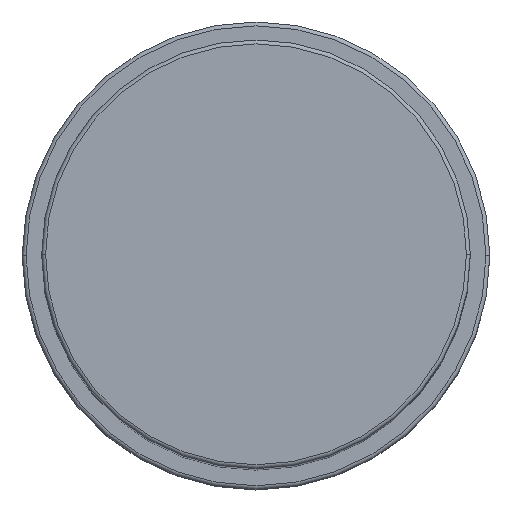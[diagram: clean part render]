
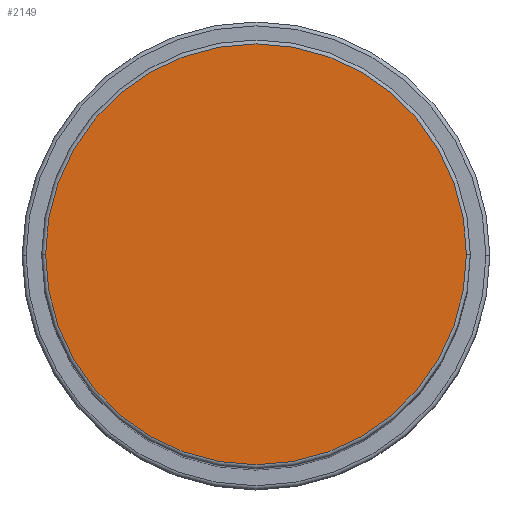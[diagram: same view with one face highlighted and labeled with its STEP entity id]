
A CAD part, top view. The second image highlights one B-rep face of the part: STEP entity #2149.
In plain terms, the highlighted planar face has unit normal (0, 0, 1).
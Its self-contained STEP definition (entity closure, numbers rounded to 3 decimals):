
#34 = EDGE_CURVE ( 'NONE', #2779, #3419, #4302, .T. ) ;
#75 = AXIS2_PLACEMENT_3D ( 'NONE', #1298, #2076, #4726 ) ;
#404 = CARTESIAN_POINT ( 'NONE',  ( -27., 0., 123. ) ) ;
#712 = DIRECTION ( 'NONE',  ( 1., 0., 0. ) ) ;
#815 = AXIS2_PLACEMENT_3D ( 'NONE', #4213, #1494, #712 ) ;
#1174 = PLANE ( 'NONE',  #815 ) ;
#1298 = CARTESIAN_POINT ( 'NONE',  ( 0., 0., 123. ) ) ;
#1494 = DIRECTION ( 'NONE',  ( 0., 0., 1. ) ) ;
#1696 = EDGE_CURVE ( 'NONE', #3419, #2779, #4937, .T. ) ;
#2004 = CARTESIAN_POINT ( 'NONE',  ( 27., 0., 123. ) ) ;
#2076 = DIRECTION ( 'NONE',  ( 0., 0., 1. ) ) ;
#2149 = ADVANCED_FACE ( 'NONE', ( #4338 ), #1174, .T. ) ;
#2439 = DIRECTION ( 'NONE',  ( 1., 0., 0. ) ) ;
#2779 = VERTEX_POINT ( 'NONE', #404 ) ;
#2842 = AXIS2_PLACEMENT_3D ( 'NONE', #4328, #4727, #2439 ) ;
#3319 = ORIENTED_EDGE ( 'NONE', *, *, #34, .T. ) ;
#3419 = VERTEX_POINT ( 'NONE', #2004 ) ;
#4131 = ORIENTED_EDGE ( 'NONE', *, *, #1696, .T. ) ;
#4213 = CARTESIAN_POINT ( 'NONE',  ( 0., 0., 123. ) ) ;
#4302 = CIRCLE ( 'NONE', #2842, 27. ) ;
#4328 = CARTESIAN_POINT ( 'NONE',  ( 0., 0., 123. ) ) ;
#4338 = FACE_OUTER_BOUND ( 'NONE', #4786, .T. ) ;
#4726 = DIRECTION ( 'NONE',  ( 1., 0., 0. ) ) ;
#4727 = DIRECTION ( 'NONE',  ( 0., 0., 1. ) ) ;
#4786 = EDGE_LOOP ( 'NONE', ( #4131, #3319 ) ) ;
#4937 = CIRCLE ( 'NONE', #75, 27. ) ;
